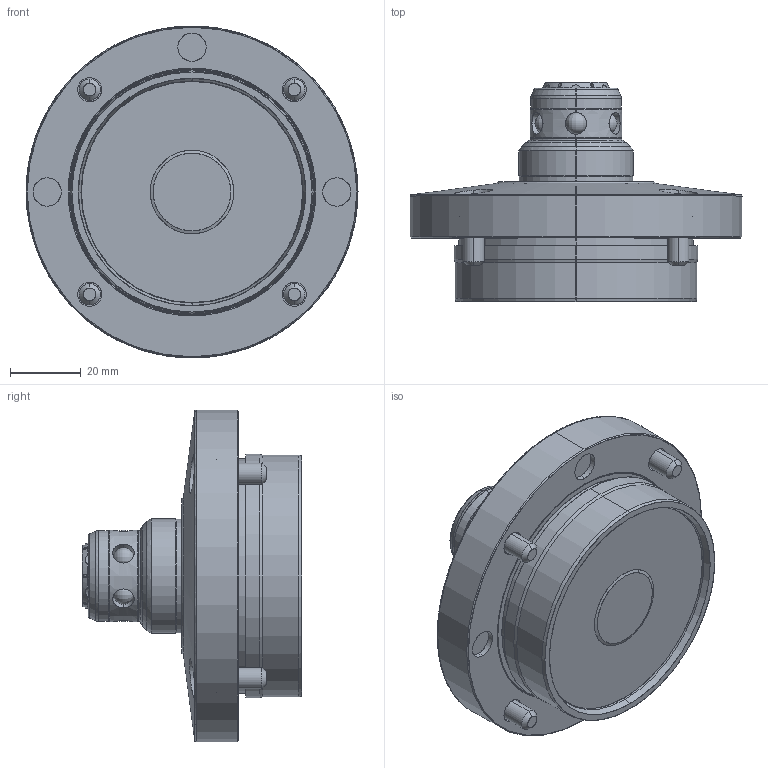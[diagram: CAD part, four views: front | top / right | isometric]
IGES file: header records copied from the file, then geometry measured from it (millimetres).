
Start section: SolidWorks IGES file using analytic representation for surfaces
Global section: file name: C:\Documents and Settings\D211\デスクトップ\IGES・STEP203変換用中間ﾌｫﾙﾀﾞ\SWT0050-MG.igs; native system: SolidWorks 2009; preprocessor: SolidWorks 2009; author: D211; date: 100804.162352; units: millimetre
Bounding box: 94 x 62.2 x 94 mm (x, y, z)
Surface area: 42566.9 mm2 (no closed solid volume)
Topology: 0 solids, 0 shells, 299 faces, 5132 edges, 5112 vertices
Faces by surface type: revolution 197, bspline 102
